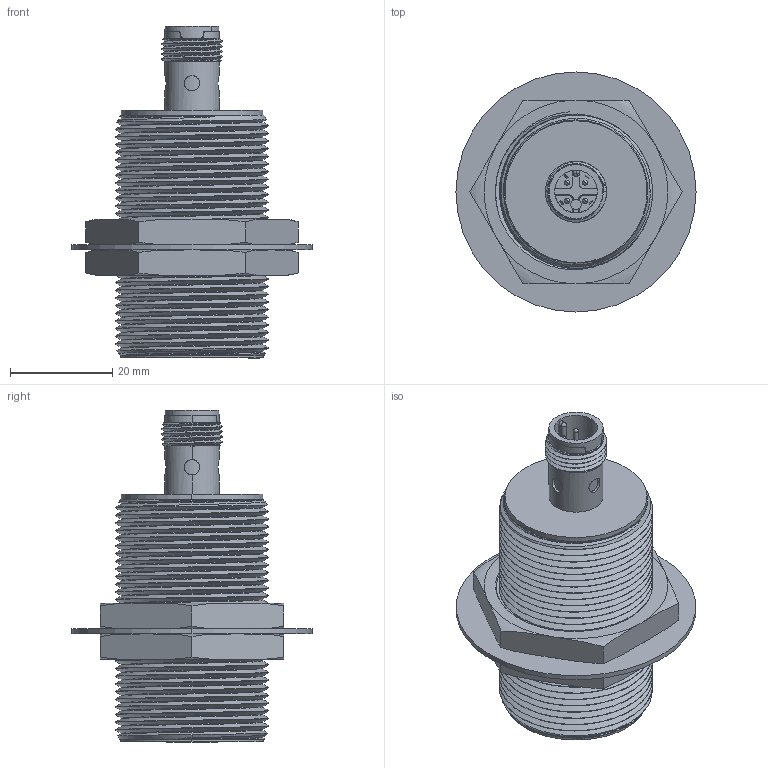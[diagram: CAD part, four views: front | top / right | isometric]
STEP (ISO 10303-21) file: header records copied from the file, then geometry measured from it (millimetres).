
FILE_DESCRIPTION (( 'STEP AP214' ), '1' );
FILE_NAME ('SN30Y-B-E2-K65.STEP', '2025-08-20T11:34:21', ( 'Windows User' ), ( 'P R C' ), 'SwSTEP 2.0', 'SolidWorks 2023', '' );
FILE_SCHEMA (( 'AUTOMOTIVE_DESIGN' ));
Length unit declared in the file: millimetre
Products named in the file (9): 准齐平前塞_xin.STEP; M30X46.9壳体.STEP; SN30Y-E(2).STEP; M30垫片.STEP; M12 Connector 更新定位槽_4.STEP; SN30Y-B-E2-K65; 屏蔽圈xin.STEP; M30螺丝.STEP; 铜接头_2.STEP
Assembly tree (9 placements, depth 3):
  SN30Y-B-E2-K65
    SN30Y-E(2).STEP
      铜接头_2.STEP
      M30X46.9壳体.STEP
      M12 Connector 更新定位槽_4.STEP
      屏蔽圈xin.STEP
      准齐平前塞_xin.STEP
      M30螺丝.STEP
    M30垫片.STEP
    M30螺丝.STEP
Bounding box: 47 x 47 x 65 mm (x, y, z)
Volume: 13820 mm3; surface area: 27245.9 mm2
Topology: 8 solids, 9 shells, 625 faces, 1609 edges, 1020 vertices
Faces by surface type: cylinder 266, plane 178, bspline 69, cone 52, torus 50, sphere 10
Entity records: 31069 total; most frequent: CARTESIAN_POINT 17238, ORIENTED_EDGE 3028, DIRECTION 2582, EDGE_CURVE 1514, AXIS2_PLACEMENT_3D 973, VERTEX_POINT 964, EDGE_LOOP 642, LINE 636
